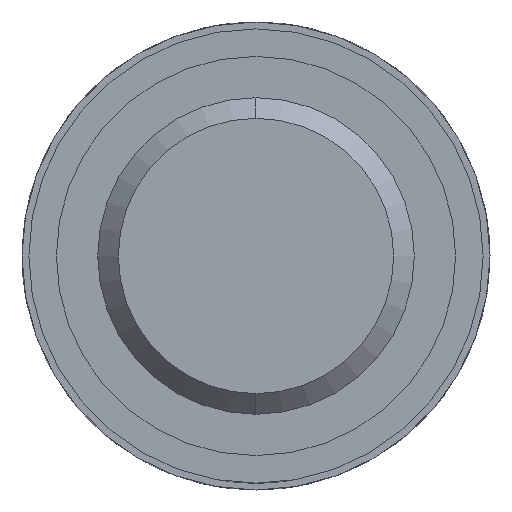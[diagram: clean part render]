
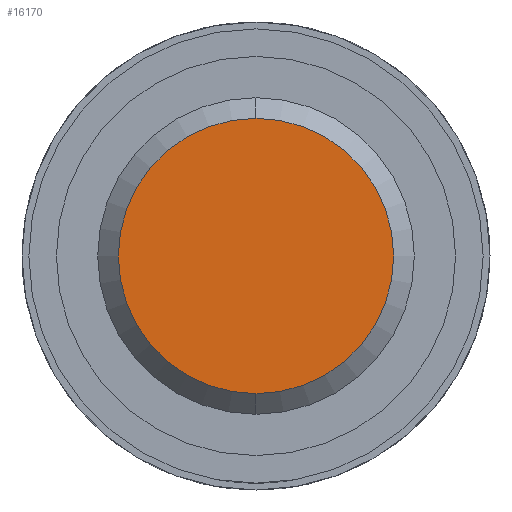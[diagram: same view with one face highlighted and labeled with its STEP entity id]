
A CAD part, left-side view. The second image highlights one B-rep face of the part: STEP entity #16170.
In plain terms, the highlighted planar face has unit normal (-1, 0, 0).
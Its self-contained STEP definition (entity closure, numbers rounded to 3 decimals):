
#119 = ORIENTED_EDGE ( 'NONE', *, *, #12858, .T. ) ;
#496 = FACE_OUTER_BOUND ( 'NONE', #545, .T. ) ;
#545 = EDGE_LOOP ( 'NONE', ( #17513, #119 ) ) ;
#683 = DIRECTION ( 'NONE',  ( -1., 0., 0. ) ) ;
#1701 = VERTEX_POINT ( 'NONE', #13173 ) ;
#4008 = AXIS2_PLACEMENT_3D ( 'NONE', #4859, #683, #6421 ) ;
#4225 = EDGE_CURVE ( 'NONE', #1701, #10313, #9547, .T. ) ;
#4652 = CIRCLE ( 'NONE', #11680, 10. ) ;
#4859 = CARTESIAN_POINT ( 'NONE',  ( -166., 0., 0. ) ) ;
#5186 = DIRECTION ( 'NONE',  ( -1., 0., 0. ) ) ;
#6040 = PLANE ( 'NONE',  #9209 ) ;
#6421 = DIRECTION ( 'NONE',  ( 0., 0., -1. ) ) ;
#9209 = AXIS2_PLACEMENT_3D ( 'NONE', #10160, #11536, #11810 ) ;
#9547 = CIRCLE ( 'NONE', #4008, 10. ) ;
#10160 = CARTESIAN_POINT ( 'NONE',  ( -166., 0., 0. ) ) ;
#10313 = VERTEX_POINT ( 'NONE', #13479 ) ;
#10772 = DIRECTION ( 'NONE',  ( 0., 0., -1. ) ) ;
#11536 = DIRECTION ( 'NONE',  ( 1., 0., 0. ) ) ;
#11680 = AXIS2_PLACEMENT_3D ( 'NONE', #17686, #5186, #10772 ) ;
#11810 = DIRECTION ( 'NONE',  ( 0., 0., -1. ) ) ;
#12858 = EDGE_CURVE ( 'NONE', #10313, #1701, #4652, .T. ) ;
#13173 = CARTESIAN_POINT ( 'NONE',  ( -166., 0., -10. ) ) ;
#13479 = CARTESIAN_POINT ( 'NONE',  ( -166., 0., 10. ) ) ;
#16170 = ADVANCED_FACE ( 'NONE', ( #496 ), #6040, .F. ) ;
#17513 = ORIENTED_EDGE ( 'NONE', *, *, #4225, .T. ) ;
#17686 = CARTESIAN_POINT ( 'NONE',  ( -166., 0., 0. ) ) ;
